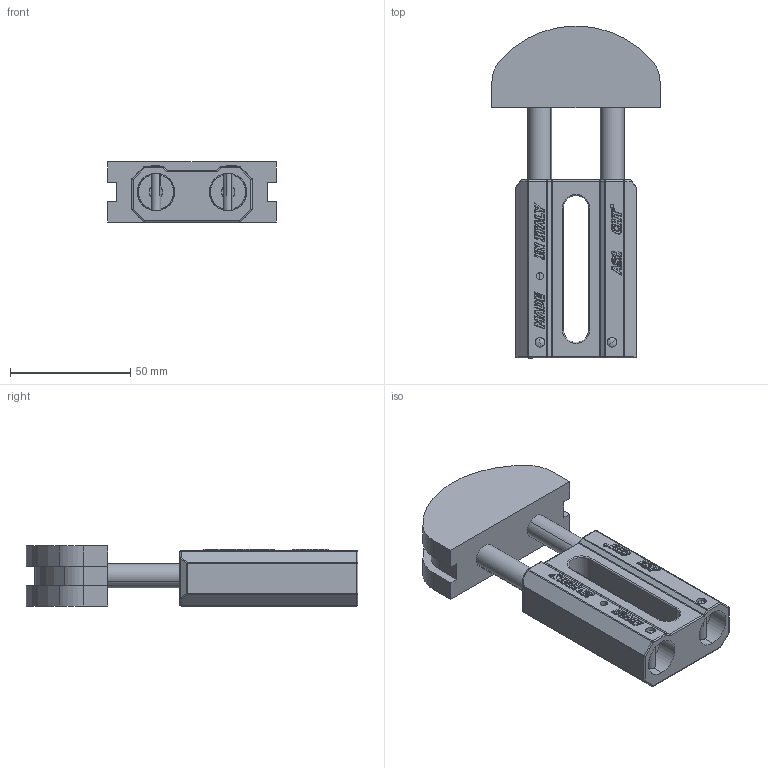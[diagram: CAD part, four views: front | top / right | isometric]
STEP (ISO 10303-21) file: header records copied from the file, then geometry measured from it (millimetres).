
FILE_DESCRIPTION (( 'STEP AP203' ), '1' );
FILE_NAME ('ASGE1 5-8D cod.94001502N.STEP', '2018-05-14T05:36:21', ( '' ), ( '' ), 'SwSTEP 2.0', 'SolidWorks 2016', '' );
FILE_SCHEMA (( 'CONFIG_CONTROL_DESIGN' ));
Length unit declared in the file: millimetre
Products named in the file (7): Boccola 10-12-15; ASGE1 5-8D cod.94001502N; ASGE1 PERNO comm.; AS 1-Base; ISO 8745-M4x22-St_ISO 8745-M4x22-St; ASGE1 ISO 10B-2; Ron. 5.3X15X1.2
Assembly tree (10 placements, depth 2):
  ASGE1 5-8D cod.94001502N
    AS 1-Base
    Boccola 10-12-15  x2
    ISO 8745-M4x22-St_ISO 8745-M4x22-St  x2
    Ron. 5.3X15X1.2  x2
    ASGE1 PERNO comm.  x2
    ASGE1 ISO 10B-2
Bounding box: 70 x 138 x 25.05 mm (x, y, z)
Volume: 102269.6 mm3; surface area: 39331.9 mm2
Topology: 10 solids, 10 shells, 674 faces, 1604 edges, 941 vertices
Faces by surface type: cylinder 278, plane 240, bspline 84, sphere 34, torus 26, cone 12
Entity records: 22203 total; most frequent: CARTESIAN_POINT 8032, ORIENTED_EDGE 2962, DIRECTION 2475, EDGE_CURVE 1481, VERTEX_POINT 881, VECTOR 865, LINE 865, AXIS2_PLACEMENT_3D 805
